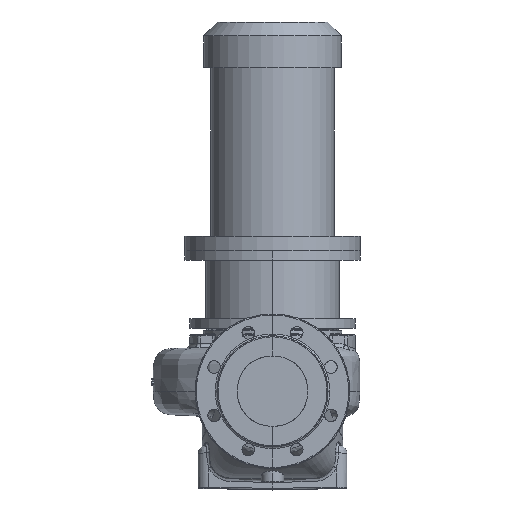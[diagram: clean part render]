
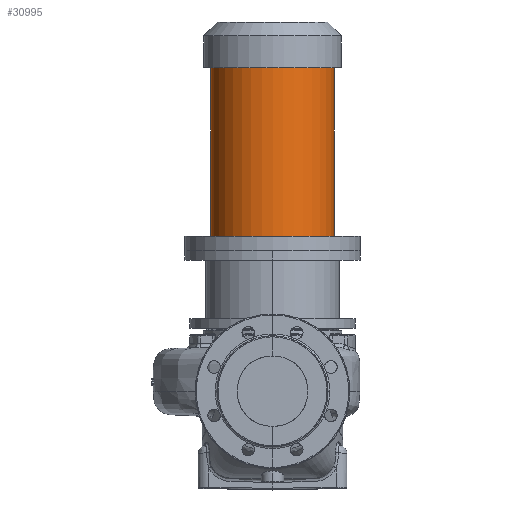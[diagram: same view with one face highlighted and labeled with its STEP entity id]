
A CAD part, top view. The second image highlights one B-rep face of the part: STEP entity #30995.
In plain terms, the highlighted cylindrical face has radius 88 mm (diameter 176 mm), a partial arc.
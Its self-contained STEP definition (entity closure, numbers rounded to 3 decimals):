
#318 = DIRECTION ( 'NONE',  ( -1., 0., 0. ) ) ;
#2098 = VERTEX_POINT ( 'NONE', #44089 ) ;
#2282 = DIRECTION ( 'NONE',  ( 0., -1., 0. ) ) ;
#4553 = AXIS2_PLACEMENT_3D ( 'NONE', #30619, #55741, #318 ) ;
#8082 = EDGE_LOOP ( 'NONE', ( #31139, #10266, #47582, #29276 ) ) ;
#8282 = DIRECTION ( 'NONE',  ( -1., 0., 0. ) ) ;
#9022 = VECTOR ( 'NONE', #26518, 1000. ) ;
#9926 = EDGE_CURVE ( 'NONE', #45941, #2098, #33519, .T. ) ;
#10266 = ORIENTED_EDGE ( 'NONE', *, *, #60790, .T. ) ;
#12297 = CARTESIAN_POINT ( 'NONE',  ( 88., 460.8, 0. ) ) ;
#13188 = DIRECTION ( 'NONE',  ( 0., -1., 0. ) ) ;
#16070 = CYLINDRICAL_SURFACE ( 'NONE', #24723, 88. ) ;
#17271 = CARTESIAN_POINT ( 'NONE',  ( -88., 200.8, 0. ) ) ;
#17764 = EDGE_CURVE ( 'NONE', #34896, #2098, #63877, .T. ) ;
#22427 = FACE_OUTER_BOUND ( 'NONE', #8082, .T. ) ;
#24723 = AXIS2_PLACEMENT_3D ( 'NONE', #27267, #2282, #8282 ) ;
#26518 = DIRECTION ( 'NONE',  ( 0., -1., 0. ) ) ;
#27267 = CARTESIAN_POINT ( 'NONE',  ( 0., 200.8, 0. ) ) ;
#29276 = ORIENTED_EDGE ( 'NONE', *, *, #17764, .F. ) ;
#30619 = CARTESIAN_POINT ( 'NONE',  ( 0., 460.8, 0. ) ) ;
#30995 = ADVANCED_FACE ( 'NONE', ( #22427 ), #16070, .T. ) ;
#31104 = CARTESIAN_POINT ( 'NONE',  ( -88., 460.8, 0. ) ) ;
#31139 = ORIENTED_EDGE ( 'NONE', *, *, #60023, .F. ) ;
#33519 = LINE ( 'NONE', #17271, #52388 ) ;
#34415 = DIRECTION ( 'NONE',  ( -1., 0., 0. ) ) ;
#34896 = VERTEX_POINT ( 'NONE', #60359 ) ;
#36980 = CARTESIAN_POINT ( 'NONE',  ( 88., 200.8, 0. ) ) ;
#38836 = CARTESIAN_POINT ( 'NONE',  ( 0., 220.8, 0. ) ) ;
#42987 = LINE ( 'NONE', #36980, #9022 ) ;
#44089 = CARTESIAN_POINT ( 'NONE',  ( -88., 220.8, 0. ) ) ;
#44889 = CIRCLE ( 'NONE', #4553, 88. ) ;
#45941 = VERTEX_POINT ( 'NONE', #31104 ) ;
#47253 = AXIS2_PLACEMENT_3D ( 'NONE', #38836, #13188, #34415 ) ;
#47582 = ORIENTED_EDGE ( 'NONE', *, *, #9926, .T. ) ;
#51651 = VERTEX_POINT ( 'NONE', #12297 ) ;
#52388 = VECTOR ( 'NONE', #53078, 1000. ) ;
#53078 = DIRECTION ( 'NONE',  ( 0., -1., 0. ) ) ;
#55741 = DIRECTION ( 'NONE',  ( 0., -1., 0. ) ) ;
#60023 = EDGE_CURVE ( 'NONE', #51651, #34896, #42987, .T. ) ;
#60359 = CARTESIAN_POINT ( 'NONE',  ( 88., 220.8, 0. ) ) ;
#60790 = EDGE_CURVE ( 'NONE', #51651, #45941, #44889, .T. ) ;
#63877 = CIRCLE ( 'NONE', #47253, 88. ) ;
